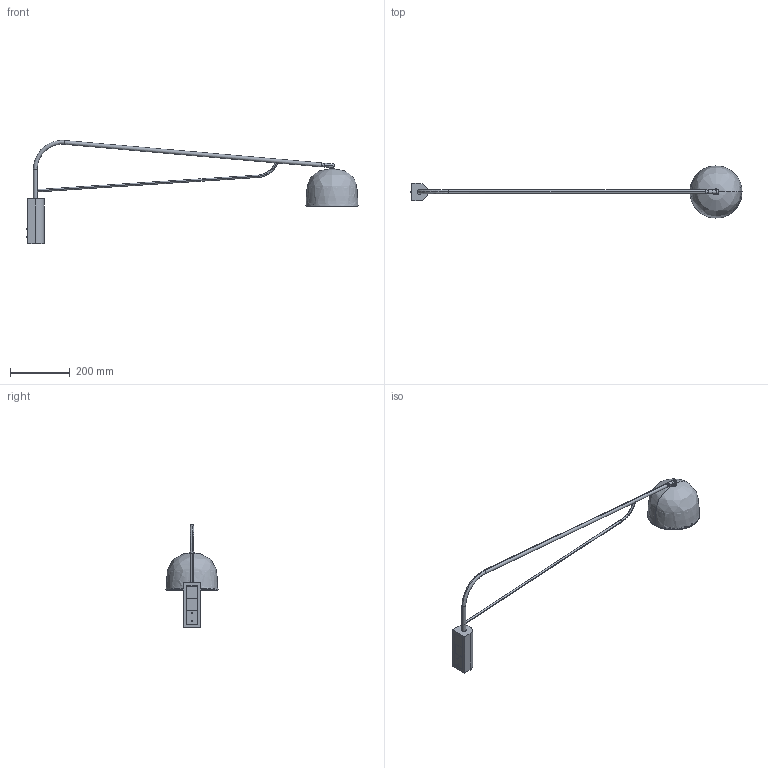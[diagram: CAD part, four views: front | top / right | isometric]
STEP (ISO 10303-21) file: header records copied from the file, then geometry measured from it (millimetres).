
FILE_DESCRIPTION(/* description */ (''),/* implementation_level */ '2;1');
FILE_NAME(/* name */ 'long wall lamp assembled_16-06-2016',/* time_stamp */ '2016-06-20T11:08:43+02:00',/* author */ (''),/* organization */ (''),/* preprocessor_version */ 'ST-DEVELOPER v15',/* originating_system */ '',/* authorisation */ '');
FILE_SCHEMA (('AUTOMOTIVE_DESIGN'));
Length unit declared in the file: millimetre
Products named in the file (1): Document
Bounding box: 1114.86 x 174.64 x 346.33 mm (x, y, z)
Volume: 660460.1 mm3; surface area: 422295.3 mm2
Topology: 20 solids, 20 shells, 291 faces, 667 edges, 413 vertices
Faces by surface type: bspline 180, plane 111
Entity records: 14526 total; most frequent: CARTESIAN_POINT 10553, ORIENTED_EDGE 1314, EDGE_CURVE 657, VERTEX_POINT 413, EDGE_LOOP 330, ADVANCED_FACE 291, FACE_OUTER_BOUND 291, B_SPLINE_CURVE_WITH_KNOTS 223
